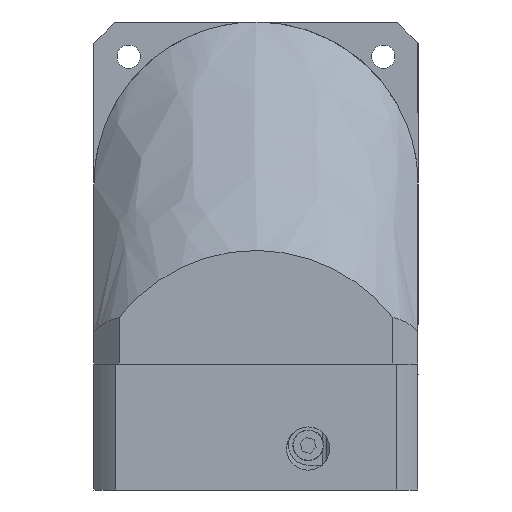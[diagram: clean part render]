
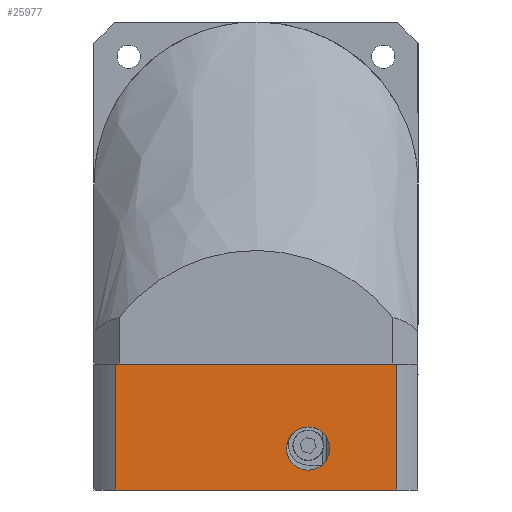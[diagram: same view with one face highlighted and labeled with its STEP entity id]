
A CAD part, front view. The second image highlights one B-rep face of the part: STEP entity #25977.
In plain terms, the highlighted planar face has unit normal (0, -1, 0) as drawn and (0, 0, 1) by its records, which use the part's own axes.
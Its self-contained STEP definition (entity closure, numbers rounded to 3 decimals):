
#634 = CIRCLE ( 'NONE', #22482, 6. ) ;
#695 = LINE ( 'NONE', #7800, #10268 ) ;
#766 = ORIENTED_EDGE ( 'NONE', *, *, #39455, .F. ) ;
#2805 = EDGE_CURVE ( 'NONE', #6928, #24041, #32378, .T. ) ;
#3198 = VECTOR ( 'NONE', #32944, 1000. ) ;
#4984 = VECTOR ( 'NONE', #26007, 1000. ) ;
#5636 = EDGE_CURVE ( 'NONE', #11684, #23869, #695, .T. ) ;
#6077 = CARTESIAN_POINT ( 'NONE',  ( 59., -45., 45. ) ) ;
#6589 = AXIS2_PLACEMENT_3D ( 'NONE', #6077, #13334, #38552 ) ;
#6928 = VERTEX_POINT ( 'NONE', #27359 ) ;
#7471 = CARTESIAN_POINT ( 'NONE',  ( 0., 38.926, 45. ) ) ;
#7800 = CARTESIAN_POINT ( 'NONE',  ( 35., 59.5, 45. ) ) ;
#8297 = CARTESIAN_POINT ( 'NONE',  ( 11.5, -14.5, 45. ) ) ;
#8842 = VERTEX_POINT ( 'NONE', #40412 ) ;
#9848 = ORIENTED_EDGE ( 'NONE', *, *, #40788, .T. ) ;
#10268 = VECTOR ( 'NONE', #36638, 1000. ) ;
#10656 = EDGE_LOOP ( 'NONE', ( #17562, #9848 ) ) ;
#11374 = CARTESIAN_POINT ( 'NONE',  ( 0., -45., 45. ) ) ;
#11684 = VERTEX_POINT ( 'NONE', #30205 ) ;
#11915 = DIRECTION ( 'NONE',  ( 1., 0., 0. ) ) ;
#13046 = CARTESIAN_POINT ( 'NONE',  ( 11.5, -14.5, 45. ) ) ;
#13334 = DIRECTION ( 'NONE',  ( 0., 0., 1. ) ) ;
#16634 = DIRECTION ( 'NONE',  ( 1., 0., 0. ) ) ;
#17562 = ORIENTED_EDGE ( 'NONE', *, *, #2805, .T. ) ;
#18385 = CARTESIAN_POINT ( 'NONE',  ( 5.5, -14.5, 45. ) ) ;
#20940 = LINE ( 'NONE', #7471, #39033 ) ;
#22324 = LINE ( 'NONE', #11374, #3198 ) ;
#22366 = CARTESIAN_POINT ( 'NONE',  ( 0., -38.926, 45. ) ) ;
#22482 = AXIS2_PLACEMENT_3D ( 'NONE', #8297, #33501, #11915 ) ;
#23869 = VERTEX_POINT ( 'NONE', #28049 ) ;
#24041 = VERTEX_POINT ( 'NONE', #18385 ) ;
#25434 = DIRECTION ( 'NONE',  ( 1., 0., 0. ) ) ;
#25977 = ADVANCED_FACE ( 'NONE', ( #28397, #37944 ), #34916, .T. ) ;
#26007 = DIRECTION ( 'NONE',  ( -1., 0., 0. ) ) ;
#27359 = CARTESIAN_POINT ( 'NONE',  ( 17.5, -14.5, 45. ) ) ;
#27705 = ORIENTED_EDGE ( 'NONE', *, *, #29828, .F. ) ;
#28049 = CARTESIAN_POINT ( 'NONE',  ( 35., 38.926, 45. ) ) ;
#28397 = FACE_BOUND ( 'NONE', #10656, .T. ) ;
#29828 = EDGE_CURVE ( 'NONE', #11684, #8842, #33767, .T. ) ;
#30205 = CARTESIAN_POINT ( 'NONE',  ( 35., -38.926, 45. ) ) ;
#31252 = VERTEX_POINT ( 'NONE', #32657 ) ;
#32378 = CIRCLE ( 'NONE', #44370, 6. ) ;
#32657 = CARTESIAN_POINT ( 'NONE',  ( 0., 38.926, 45. ) ) ;
#32944 = DIRECTION ( 'NONE',  ( 0., -1., 0. ) ) ;
#33413 = ORIENTED_EDGE ( 'NONE', *, *, #5636, .T. ) ;
#33501 = DIRECTION ( 'NONE',  ( 0., 0., -1. ) ) ;
#33767 = LINE ( 'NONE', #22366, #4984 ) ;
#34916 = PLANE ( 'NONE',  #6589 ) ;
#36638 = DIRECTION ( 'NONE',  ( 0., 1., 0. ) ) ;
#37944 = FACE_OUTER_BOUND ( 'NONE', #42157, .T. ) ;
#38251 = DIRECTION ( 'NONE',  ( 0., 0., -1. ) ) ;
#38552 = DIRECTION ( 'NONE',  ( 1., 0., 0. ) ) ;
#39033 = VECTOR ( 'NONE', #25434, 1000. ) ;
#39455 = EDGE_CURVE ( 'NONE', #31252, #23869, #20940, .T. ) ;
#40412 = CARTESIAN_POINT ( 'NONE',  ( 0., -38.926, 45. ) ) ;
#40788 = EDGE_CURVE ( 'NONE', #24041, #6928, #634, .T. ) ;
#42157 = EDGE_LOOP ( 'NONE', ( #766, #45445, #27705, #33413 ) ) ;
#44370 = AXIS2_PLACEMENT_3D ( 'NONE', #13046, #38251, #16634 ) ;
#45445 = ORIENTED_EDGE ( 'NONE', *, *, #45855, .T. ) ;
#45855 = EDGE_CURVE ( 'NONE', #31252, #8842, #22324, .T. ) ;
